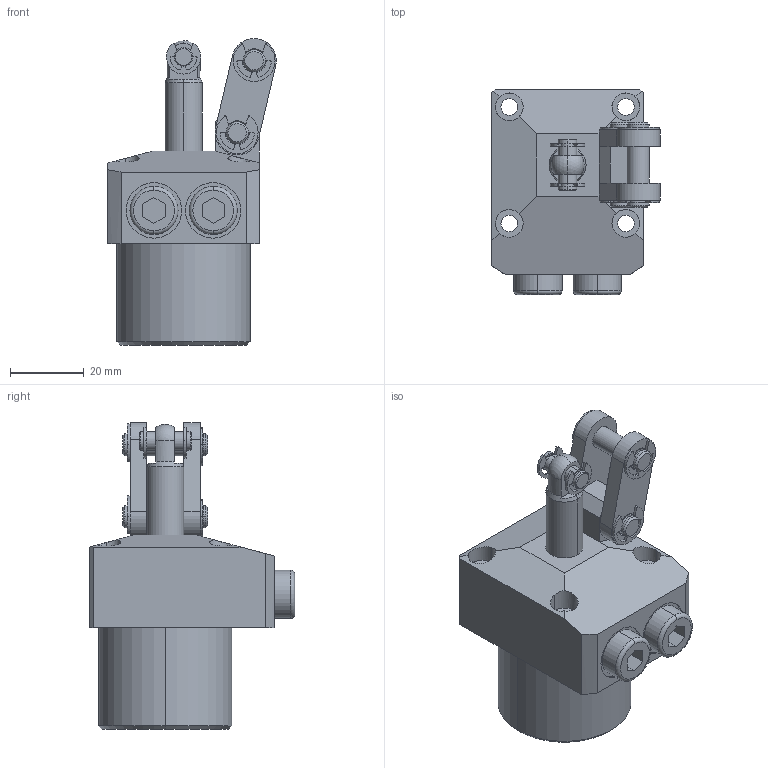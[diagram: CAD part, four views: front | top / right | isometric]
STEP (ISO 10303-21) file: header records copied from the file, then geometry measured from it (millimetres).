
FILE_DESCRIPTION (( 'STEP AP214' ), '1' );
FILE_NAME ('4171 121 R.STEP', '2017-10-17T06:05:03', ( '' ), ( '' ), 'SwSTEP 2.0', 'SolidWorks 2015', '' );
FILE_SCHEMA (( 'AUTOMOTIVE_DESIGN' ));
Length unit declared in the file: millimetre
Products named in the file (8): (type e)_is_IS 3075(Part3) - 4; (type e)_is_IS 3075(Part3) - 5; PIN1; PR; PLATE; PIN; BODY_4171 121 R; 4171 121 R
Assembly tree (13 placements, depth 2):
  4171 121 R
    BODY_4171 121 R
    PIN  x2
    PLATE  x2
    PR
    PIN1
    (type e)_is_IS 3075(Part3) - 5  x4
    (type e)_is_IS 3075(Part3) - 4  x2
Bounding box: 45.56 x 55.5 x 82.96 mm (x, y, z)
Volume: 78319.4 mm3; surface area: 20396.6 mm2
Topology: 13 solids, 13 shells, 377 faces, 941 edges, 603 vertices
Faces by surface type: cylinder 196, plane 125, cone 50, torus 4, sphere 2
Entity records: 7617 total; most frequent: CARTESIAN_POINT 1449, DIRECTION 1305, ORIENTED_EDGE 1150, EDGE_CURVE 575, AXIS2_PLACEMENT_3D 509, VERTEX_POINT 369, VECTOR 287, LINE 287
